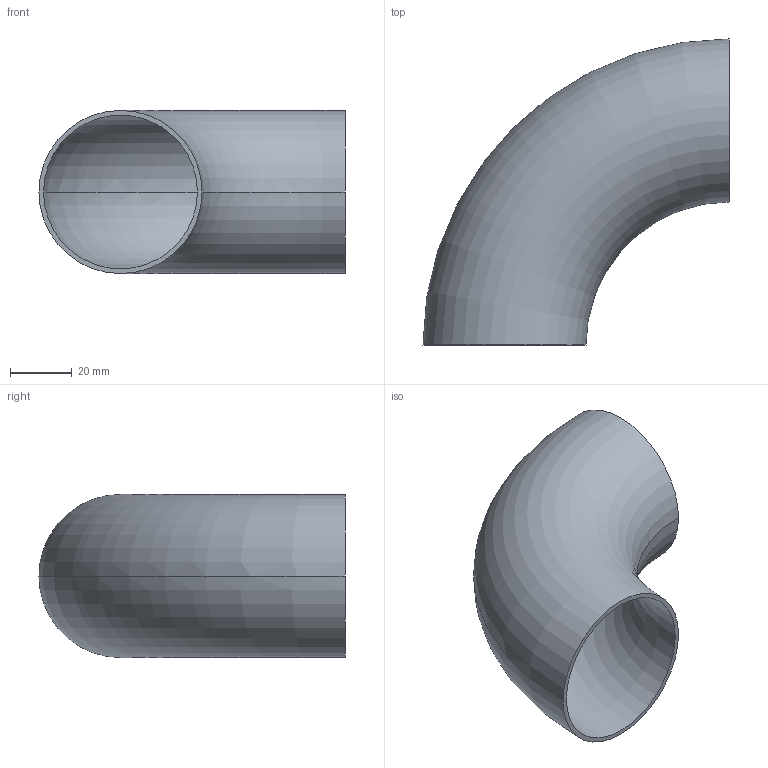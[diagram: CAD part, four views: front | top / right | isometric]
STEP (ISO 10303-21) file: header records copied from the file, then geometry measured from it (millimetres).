
FILE_DESCRIPTION (( 'STEP AP203' ), '1' );
FILE_NAME ('OT212-50-53x1_5_OSTP.step', '2020-12-16T02:26:45', ( '' ), ( '' ), 'SwSTEP 2.0', 'SolidWorks 2014', '' );
FILE_SCHEMA (( 'CONFIG_CONTROL_DESIGN' ));
Length unit declared in the file: millimetre
Products named in the file (1): OT212-50-53x1_5_OSTP
Bounding box: 99.5 x 99.5 x 53 mm (x, y, z)
Volume: 27828.6 mm3; surface area: 37590.2 mm2
Topology: 1 solids, 1 shells, 6 faces, 12 edges, 8 vertices
Faces by surface type: torus 4, plane 2
Entity records: 249 total; most frequent: DIRECTION 38, CARTESIAN_POINT 27, ORIENTED_EDGE 24, AXIS2_PLACEMENT_3D 19, CIRCLE 12, EDGE_CURVE 12, EDGE_LOOP 8, VERTEX_POINT 8
